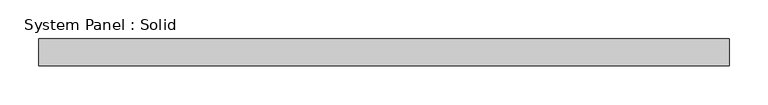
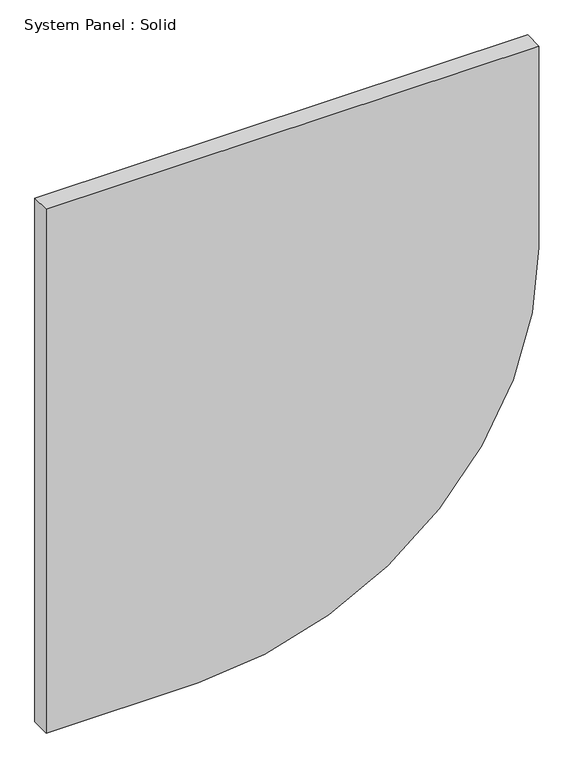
"""IFC4 building model written with IfcOpenShell, lengths in millimetres: plate geometry, System Panel : Solid."""

from ifc_helpers import new_model, si_unit, point, frame, frame_2d, origin, place, context, project, spatial, polyline, circle_curve, trimmed, segment, composite_curve, outline, extrude, source, transform, mapped, element, save


def system_panel_solid_2f8d69e4(model_context):
    return source(origin(), model_context, "Body", "SweptSolid", [
        extrude(outline(composite_curve([segment(polyline([(0.0, -444.9999998), (0.0, -170.0000002)]), True, "CONTINUOUS"), segment(trimmed(circle_curve(frame_2d((615.0, -170.0000002)), 615.0), [point((0.0, -170.0000002))], [point((615.0, 444.9999998))], False, "CARTESIAN"), True, "CONTINUOUS"), segment(polyline([(615.0, 444.9999998), (1000.0, 444.9999998), (1000.0, -444.9999998), (0.0, -444.9999998)]), True, "CONTINUOUS")], self_intersect=False)), frame((0.0, -2.5, 0.0), z_axis=(0.0, 1.0, 0.0), x_axis=(0.0, 0.0, 1.0)), (0.0, 0.0, 1.0), 35.0),
    ])


if __name__ == "__main__":
    model = new_model("IFC4")
    model_context = context("Model", 3, world=origin())
    ifc_project = project(units=[si_unit("LENGTHUNIT", "METRE", prefix="MILLI")], contexts=[model_context])
    site = spatial("IfcSite", under=ifc_project)
    building = spatial("IfcBuilding", under=site)
    placement = place(None, origin())
    system_panel_solid_shape = system_panel_solid_2f8d69e4(model_context)
    element("IfcPlate", 1, ObjectType="System Panel : Solid", at=placement, inside=building, context=model_context, shape_type="MappedRepresentation", body=[
        mapped(system_panel_solid_shape, transform((0.0, 0.0, 0.0), x_axis=(1.0, 0.0, 0.0), y_axis=(0.0, 1.0, 0.0), z_axis=(0.0, 0.0, 1.0))),
    ])
    save(model, "model.ifc")
